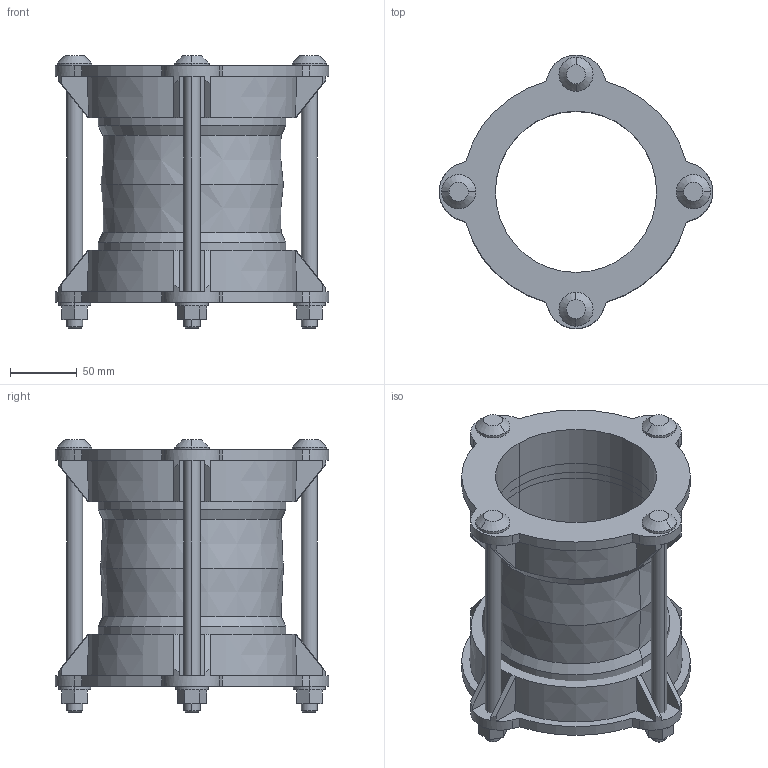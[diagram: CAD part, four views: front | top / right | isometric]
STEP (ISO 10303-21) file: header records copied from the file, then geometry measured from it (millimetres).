
FILE_DESCRIPTION((''),'2;1');
FILE_NAME('FLEXLOCK_COUPLING_118_ASM','2020-07-28T',('MReader'),(''),'CREO PARAMETRIC BY PTC INC, 2016130','CREO PARAMETRIC BY PTC INC, 2016130','');
FILE_SCHEMA(('CONFIG_CONTROL_DESIGN'));
Length unit declared in the file: millimetre
Products named in the file (5): FLEXLOCK_SLEEVE_118; FLEXLOCK_ENDRING_118_AF0; FLEXLOCK_ENDRING_118; PAN_HEAD_195; FLEXLOCK_COUPLING_118_ASM
Assembly tree (7 placements, depth 2):
  FLEXLOCK_COUPLING_118_ASM
    FLEXLOCK_SLEEVE_118
    FLEXLOCK_ENDRING_118_AF0
    FLEXLOCK_ENDRING_118
    PAN_HEAD_195  x4
Bounding box: 204.5 x 204.5 x 203.63 mm (x, y, z)
Volume: 1236638.3 mm3; surface area: 275395 mm2
Topology: 7 solids, 7 shells, 224 faces, 532 edges, 334 vertices
Faces by surface type: plane 114, cone 56, cylinder 54
Entity records: 5957 total; most frequent: CARTESIAN_POINT 1305, DIRECTION 952, ORIENTED_EDGE 944, EDGE_CURVE 472, AXIS2_PLACEMENT_3D 357, VERTEX_POINT 298, VECTOR 238, LINE 238
